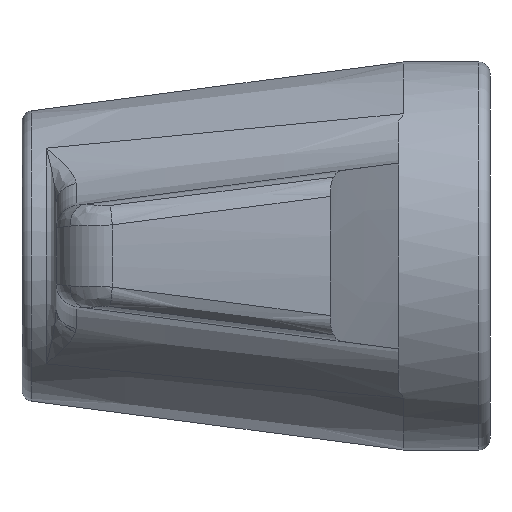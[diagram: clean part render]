
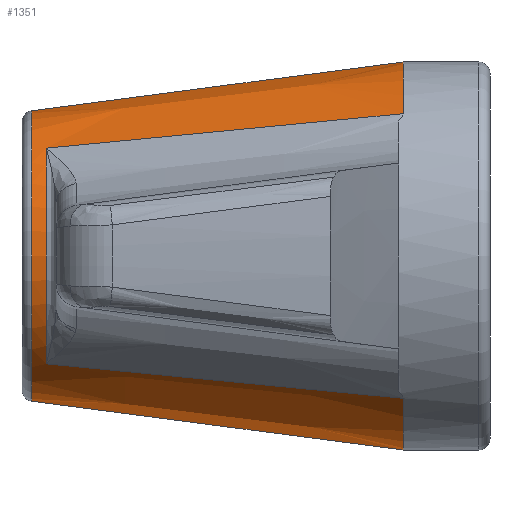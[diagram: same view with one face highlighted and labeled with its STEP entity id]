
A CAD part, left-side view. The second image highlights one B-rep face of the part: STEP entity #1351.
In plain terms, the highlighted conical face has half-angle 7.5 degrees and reference radius 6.5 mm.
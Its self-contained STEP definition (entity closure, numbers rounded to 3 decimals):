
#343 = AXIS2_PLACEMENT_3D ( 'NONE', #440, #379, #378 ) ;
#377 = CARTESIAN_POINT ( 'NONE',  ( 0., 3.808, 8.5 ) ) ;
#378 = DIRECTION ( 'NONE',  ( 0., 0., -1. ) ) ;
#379 = DIRECTION ( 'NONE',  ( 0., -1., 0. ) ) ;
#383 = CARTESIAN_POINT ( 'NONE',  ( -5.779, 3.808, 6.233 ) ) ;
#398 = DIRECTION ( 'NONE',  ( 0.089, 0.991, -0.096 ) ) ;
#399 = VECTOR ( 'NONE', #398, 1000. ) ;
#400 = CARTESIAN_POINT ( 'NONE',  ( -4.419, 19., 4.767 ) ) ;
#401 = LINE ( 'NONE', #400, #399 ) ;
#402 = CARTESIAN_POINT ( 'NONE',  ( -4.38, 19.435, 4.725 ) ) ;
#439 = CIRCLE ( 'NONE', #343, 8.5 ) ;
#440 = CARTESIAN_POINT ( 'NONE',  ( 0., 3.808, 0. ) ) ;
#1257 = EDGE_CURVE ( 'NONE', #1316, #1437, #2162, .T. ) ;
#1301 = ORIENTED_EDGE ( 'NONE', *, *, #1302, .T. ) ;
#1302 = EDGE_CURVE ( 'NONE', #1333, #1304, #2289, .T. ) ;
#1304 = VERTEX_POINT ( 'NONE', #2366 ) ;
#1307 = ORIENTED_EDGE ( 'NONE', *, *, #1308, .F. ) ;
#1308 = EDGE_CURVE ( 'NONE', #1310, #1304, #2373, .T. ) ;
#1310 = VERTEX_POINT ( 'NONE', #2365 ) ;
#1312 = ORIENTED_EDGE ( 'NONE', *, *, #1315, .T. ) ;
#1315 = EDGE_CURVE ( 'NONE', #1310, #1316, #2318, .T. ) ;
#1316 = VERTEX_POINT ( 'NONE', #2314 ) ;
#1317 = ORIENTED_EDGE ( 'NONE', *, *, #1257, .T. ) ;
#1333 = VERTEX_POINT ( 'NONE', #2342 ) ;
#1334 = VERTEX_POINT ( 'NONE', #2341 ) ;
#1351 = ADVANCED_FACE ( 'NONE', ( #2451 ), #2457, .T. ) ;
#1352 = ORIENTED_EDGE ( 'NONE', *, *, #1353, .T. ) ;
#1353 = EDGE_CURVE ( 'NONE', #1334, #1333, #2386, .T. ) ;
#1354 = ORIENTED_EDGE ( 'NONE', *, *, #1355, .F. ) ;
#1355 = EDGE_CURVE ( 'NONE', #1334, #1400, #2458, .T. ) ;
#1380 = EDGE_LOOP ( 'NONE', ( #1352, #1301, #1307, #1312, #1317, #1438, #1422, #1354 ) ) ;
#1399 = EDGE_CURVE ( 'NONE', #1400, #1421, #439, .T. ) ;
#1400 = VERTEX_POINT ( 'NONE', #377 ) ;
#1421 = VERTEX_POINT ( 'NONE', #383 ) ;
#1422 = ORIENTED_EDGE ( 'NONE', *, *, #1399, .F. ) ;
#1437 = VERTEX_POINT ( 'NONE', #402 ) ;
#1438 = ORIENTED_EDGE ( 'NONE', *, *, #1439, .F. ) ;
#1439 = EDGE_CURVE ( 'NONE', #1421, #1437, #401, .T. ) ;
#2158 = DIRECTION ( 'NONE',  ( 0., 0., -1. ) ) ;
#2159 = DIRECTION ( 'NONE',  ( 0., 1., 0. ) ) ;
#2160 = CARTESIAN_POINT ( 'NONE',  ( 0., 19.435, 0. ) ) ;
#2161 = AXIS2_PLACEMENT_3D ( 'NONE', #2160, #2159, #2158 ) ;
#2162 = CIRCLE ( 'NONE', #2161, 6.443 ) ;
#2288 = CARTESIAN_POINT ( 'NONE',  ( 0., 19., -6.5 ) ) ;
#2289 = LINE ( 'NONE', #2288, #2368 ) ;
#2314 = CARTESIAN_POINT ( 'NONE',  ( -4.38, 19.435, -4.725 ) ) ;
#2315 = DIRECTION ( 'NONE',  ( 0.089, 0.991, 0.096 ) ) ;
#2316 = VECTOR ( 'NONE', #2315, 1000. ) ;
#2317 = CARTESIAN_POINT ( 'NONE',  ( -4.419, 19., -4.767 ) ) ;
#2318 = LINE ( 'NONE', #2317, #2316 ) ;
#2341 = CARTESIAN_POINT ( 'NONE',  ( 0., 20.065, 6.36 ) ) ;
#2342 = CARTESIAN_POINT ( 'NONE',  ( 0., 20.065, -6.36 ) ) ;
#2365 = CARTESIAN_POINT ( 'NONE',  ( -5.779, 3.808, -6.233 ) ) ;
#2366 = CARTESIAN_POINT ( 'NONE',  ( 0., 3.808, -8.5 ) ) ;
#2367 = DIRECTION ( 'NONE',  ( 0., -0.991, -0.131 ) ) ;
#2368 = VECTOR ( 'NONE', #2367, 1000. ) ;
#2369 = DIRECTION ( 'NONE',  ( 0., 0., -1. ) ) ;
#2370 = DIRECTION ( 'NONE',  ( 0., -1., 0. ) ) ;
#2371 = CARTESIAN_POINT ( 'NONE',  ( 0., 3.808, 0. ) ) ;
#2372 = AXIS2_PLACEMENT_3D ( 'NONE', #2371, #2370, #2369 ) ;
#2373 = CIRCLE ( 'NONE', #2372, 8.5 ) ;
#2384 = CARTESIAN_POINT ( 'NONE',  ( 0., 20.065, 0. ) ) ;
#2385 = AXIS2_PLACEMENT_3D ( 'NONE', #2384, #2403, #2402 ) ;
#2386 = CIRCLE ( 'NONE', #2385, 6.36 ) ;
#2394 = CARTESIAN_POINT ( 'NONE',  ( 0., 19., 6.5 ) ) ;
#2402 = DIRECTION ( 'NONE',  ( 0., 0., 1. ) ) ;
#2403 = DIRECTION ( 'NONE',  ( 0., -1., 0. ) ) ;
#2427 = DIRECTION ( 'NONE',  ( 0., 0., 1. ) ) ;
#2428 = DIRECTION ( 'NONE',  ( 0., -1., 0. ) ) ;
#2451 = FACE_OUTER_BOUND ( 'NONE', #1380, .T. ) ;
#2455 = CARTESIAN_POINT ( 'NONE',  ( 0., 19., 0. ) ) ;
#2456 = AXIS2_PLACEMENT_3D ( 'NONE', #2455, #2428, #2427 ) ;
#2457 = CONICAL_SURFACE ( 'NONE', #2456, 6.5, 0.131 ) ;
#2458 = LINE ( 'NONE', #2394, #2468 ) ;
#2467 = DIRECTION ( 'NONE',  ( 0., -0.991, 0.131 ) ) ;
#2468 = VECTOR ( 'NONE', #2467, 1000. ) ;
